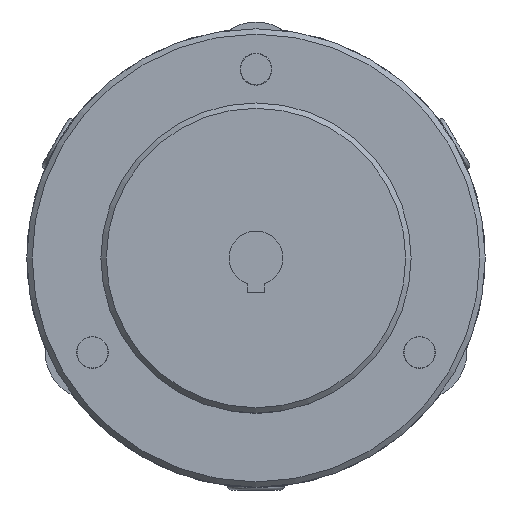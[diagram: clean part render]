
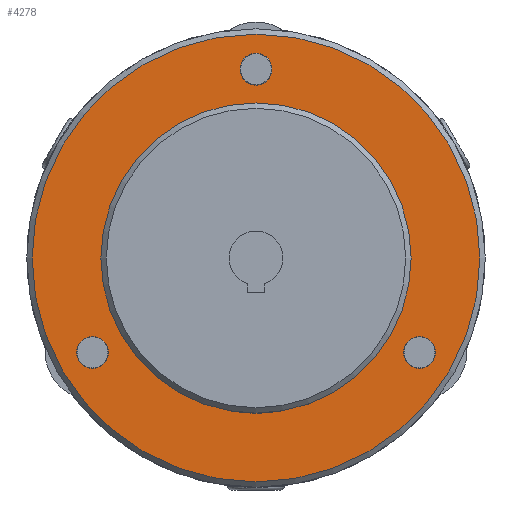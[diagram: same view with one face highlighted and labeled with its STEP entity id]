
A CAD part, left-side view. The second image highlights one B-rep face of the part: STEP entity #4278.
In plain terms, the highlighted planar face has unit normal (-1, 0, 0) as drawn and (0, 1, 0) by its records, which use the part's own axes.
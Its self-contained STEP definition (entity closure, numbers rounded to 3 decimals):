
#866=FACE_BOUND('',#1429,.T.);
#867=FACE_BOUND('',#1430,.T.);
#868=FACE_BOUND('',#1431,.T.);
#869=FACE_BOUND('',#1432,.T.);
#1125=FACE_OUTER_BOUND('',#1428,.T.);
#1428=EDGE_LOOP('',(#3880));
#1429=EDGE_LOOP('',(#3881));
#1430=EDGE_LOOP('',(#3882));
#1431=EDGE_LOOP('',(#3883));
#1432=EDGE_LOOP('',(#3884));
#1730=CIRCLE('',#4999,57.5);
#1731=CIRCLE('',#5002,83.);
#1734=CIRCLE('',#5007,5.918);
#1735=CIRCLE('',#5008,5.918);
#1736=CIRCLE('',#5009,5.918);
#2104=VERTEX_POINT('',#9106);
#2108=VERTEX_POINT('',#9153);
#2111=VERTEX_POINT('',#9163);
#2112=VERTEX_POINT('',#9165);
#2113=VERTEX_POINT('',#9167);
#2702=EDGE_CURVE('',#2104,#2104,#1730,.T.);
#2706=EDGE_CURVE('',#2108,#2108,#1731,.T.);
#2711=EDGE_CURVE('',#2111,#2111,#1734,.T.);
#2712=EDGE_CURVE('',#2112,#2112,#1735,.T.);
#2713=EDGE_CURVE('',#2113,#2113,#1736,.T.);
#3880=ORIENTED_EDGE('',*,*,#2706,.F.);
#3881=ORIENTED_EDGE('',*,*,#2702,.F.);
#3882=ORIENTED_EDGE('',*,*,#2711,.T.);
#3883=ORIENTED_EDGE('',*,*,#2712,.T.);
#3884=ORIENTED_EDGE('',*,*,#2713,.T.);
#4030=PLANE('',#5006);
#4278=ADVANCED_FACE('',(#1125,#866,#867,#868,#869),#4030,.T.);
#4999=AXIS2_PLACEMENT_3D('',#9108,#6252,#6253);
#5002=AXIS2_PLACEMENT_3D('',#9154,#6258,#6259);
#5006=AXIS2_PLACEMENT_3D('',#9162,#6268,#6269);
#5007=AXIS2_PLACEMENT_3D('',#9164,#6270,#6271);
#5008=AXIS2_PLACEMENT_3D('',#9166,#6272,#6273);
#5009=AXIS2_PLACEMENT_3D('',#9168,#6274,#6275);
#6252=DIRECTION('center_axis',(0.,1.,0.));
#6253=DIRECTION('ref_axis',(-1.,0.,0.));
#6258=DIRECTION('center_axis',(0.,-1.,0.));
#6259=DIRECTION('ref_axis',(1.,0.,0.));
#6268=DIRECTION('center_axis',(0.,1.,0.));
#6269=DIRECTION('ref_axis',(0.,0.,1.));
#6270=DIRECTION('center_axis',(0.,-1.,0.));
#6271=DIRECTION('ref_axis',(1.,0.,0.));
#6272=DIRECTION('center_axis',(0.,-1.,0.));
#6273=DIRECTION('ref_axis',(1.,0.,0.));
#6274=DIRECTION('center_axis',(0.,-1.,0.));
#6275=DIRECTION('ref_axis',(1.,0.,0.));
#9106=CARTESIAN_POINT('',(57.5,14.,0.));
#9108=CARTESIAN_POINT('Origin',(0.,14.,0.));
#9153=CARTESIAN_POINT('',(-83.,14.,0.));
#9154=CARTESIAN_POINT('Origin',(0.,14.,0.));
#9162=CARTESIAN_POINT('Origin',(-71.25,14.,0.));
#9163=CARTESIAN_POINT('',(-66.539,14.,-35.));
#9164=CARTESIAN_POINT('Origin',(-60.622,14.,-35.));
#9165=CARTESIAN_POINT('',(-5.918,14.,70.));
#9166=CARTESIAN_POINT('Origin',(0.,14.,70.));
#9167=CARTESIAN_POINT('',(54.704,14.,-35.));
#9168=CARTESIAN_POINT('Origin',(60.622,14.,-35.));
